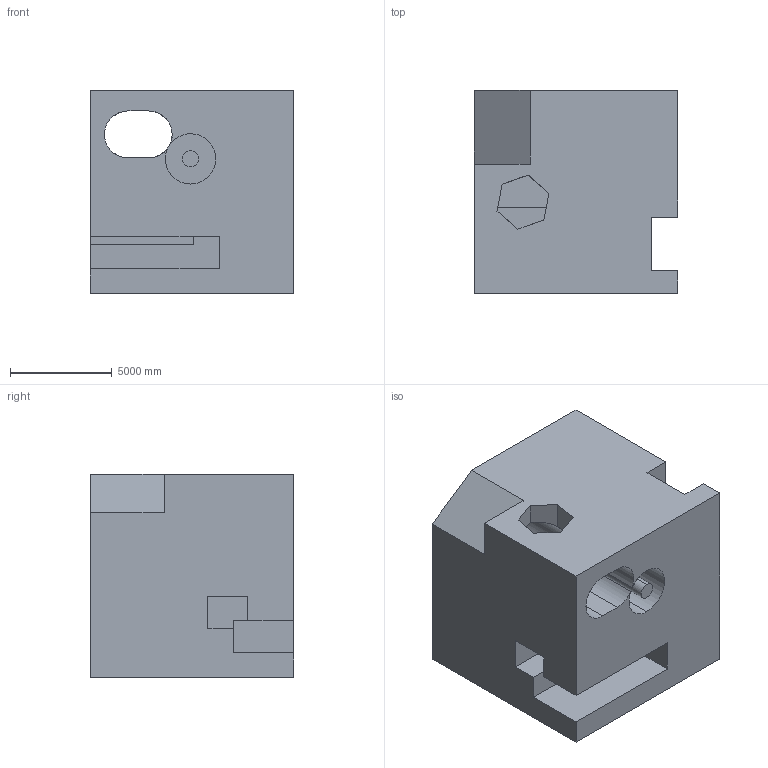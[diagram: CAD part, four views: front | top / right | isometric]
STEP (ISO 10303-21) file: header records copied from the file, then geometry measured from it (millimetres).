
FILE_DESCRIPTION (( 'STEP AP203' ), '1' );
FILE_NAME ('1617.STEP', '2022-08-18T16:12:13', ( 'user' ), ( '' ), 'SwSTEP 2.0', 'SolidWorks 2021', '' );
FILE_SCHEMA (( 'CONFIG_CONTROL_DESIGN' ));
Length unit declared in the file: centimetre
Products named in the file (1): 1617
Bounding box: 10000 x 10000 x 10000 mm (x, y, z)
Volume: 810340896770.8 mm3; surface area: 820708517.5 mm2
Topology: 1 solids, 1 shells, 47 faces, 135 edges, 90 vertices
Faces by surface type: plane 40, cylinder 7
Entity records: 1610 total; most frequent: CARTESIAN_POINT 309, ORIENTED_EDGE 270, DIRECTION 235, EDGE_CURVE 135, VECTOR 107, LINE 107, VERTEX_POINT 90, AXIS2_PLACEMENT_3D 64
